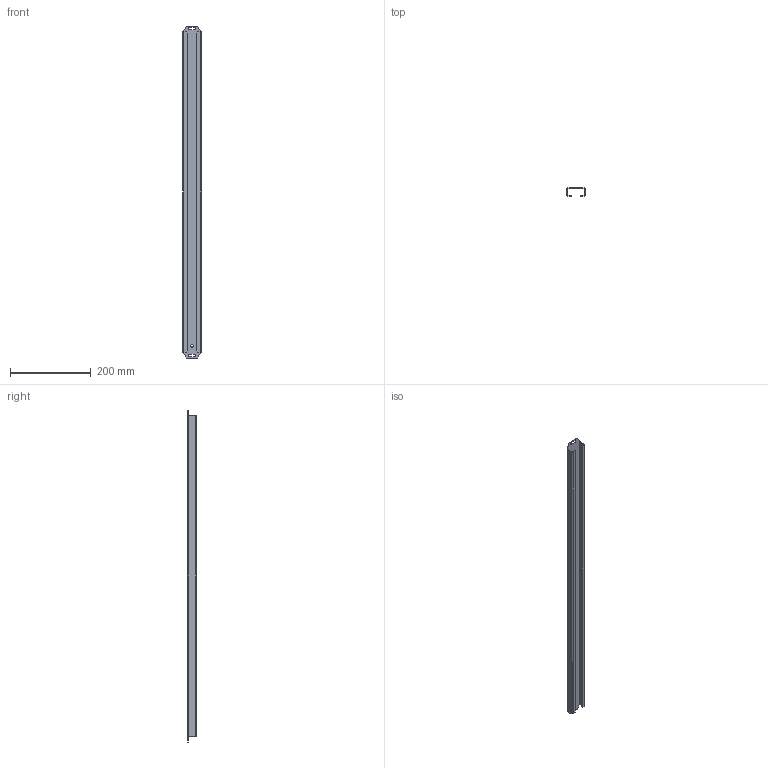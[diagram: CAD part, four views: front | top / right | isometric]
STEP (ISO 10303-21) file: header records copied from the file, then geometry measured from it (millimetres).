
FILE_DESCRIPTION (( 'STEP AP214' ), '1' );
FILE_NAME ('PKV 100 B Ïàíåëü êàáåëüíîãî ââîäà óçêàÿ.STEP', '2023-10-09T14:50:52', ( '' ), ( '' ), 'SwSTEP 2.0', 'SolidWorks 2022', '' );
FILE_SCHEMA (( 'AUTOMOTIVE_DESIGN' ));
Length unit declared in the file: millimetre
Products named in the file (1): PKV 100 B Панель кабельного ввода узкая
Bounding box: 45 x 20.5 x 820.5 mm (x, y, z)
Volume: 97417.9 mm3; surface area: 164665.7 mm2
Topology: 1 solids, 1 shells, 56 faces, 130 edges, 76 vertices
Faces by surface type: plane 38, cylinder 14, bspline 4
Entity records: 1704 total; most frequent: CARTESIAN_POINT 427, ORIENTED_EDGE 260, DIRECTION 240, EDGE_CURVE 130, VECTOR 94, LINE 94, VERTEX_POINT 76, AXIS2_PLACEMENT_3D 73
